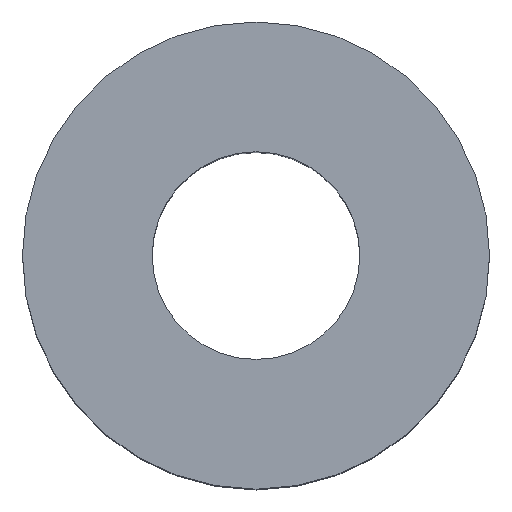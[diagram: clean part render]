
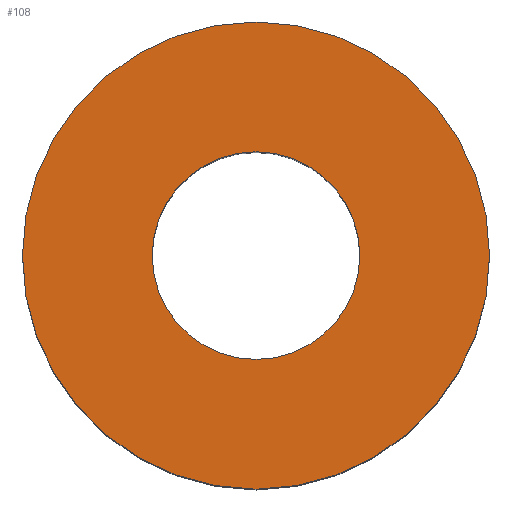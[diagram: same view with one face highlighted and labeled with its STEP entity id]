
A CAD part, top view. The second image highlights one B-rep face of the part: STEP entity #108.
In plain terms, the highlighted planar face has unit normal (0, 0, 1).
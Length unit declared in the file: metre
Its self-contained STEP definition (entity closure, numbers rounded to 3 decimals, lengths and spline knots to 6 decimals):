
#36=ORIENTED_EDGE('',*,*,#54,.F.);
#37=ORIENTED_EDGE('',*,*,#55,.T.);
#54=EDGE_CURVE('',#64,#64,#72,.T.);
#55=EDGE_CURVE('',#65,#65,#73,.F.);
#64=VERTEX_POINT('',#186);
#65=VERTEX_POINT('',#190);
#72=CIRCLE('',#125,0.0004);
#73=CIRCLE('',#127,0.0009);
#82=EDGE_LOOP('',(#36));
#83=EDGE_LOOP('',(#37));
#94=FACE_BOUND('',#82,.T.);
#95=FACE_BOUND('',#83,.T.);
#102=PLANE('',#126);
#108=ADVANCED_FACE('',(#94,#95),#102,.T.);
#125=AXIS2_PLACEMENT_3D('',#187,#153,#154);
#126=AXIS2_PLACEMENT_3D('',#188,#155,#156);
#127=AXIS2_PLACEMENT_3D('',#189,#157,#158);
#153=DIRECTION('',(0.,0.,1.));
#154=DIRECTION('',(0.,-1.,0.));
#155=DIRECTION('',(0.,0.,1.));
#156=DIRECTION('',(1.,0.,0.));
#157=DIRECTION('',(0.,0.,-1.));
#158=DIRECTION('',(0.,1.,0.));
#186=CARTESIAN_POINT('',(-0.021788,0.,-0.0283));
#187=CARTESIAN_POINT('',(-0.022188,0.,-0.0283));
#188=CARTESIAN_POINT('',(-0.022188,0.,-0.0283));
#189=CARTESIAN_POINT('',(-0.022188,0.,-0.0283));
#190=CARTESIAN_POINT('',(-0.021288,0.,-0.0283));
